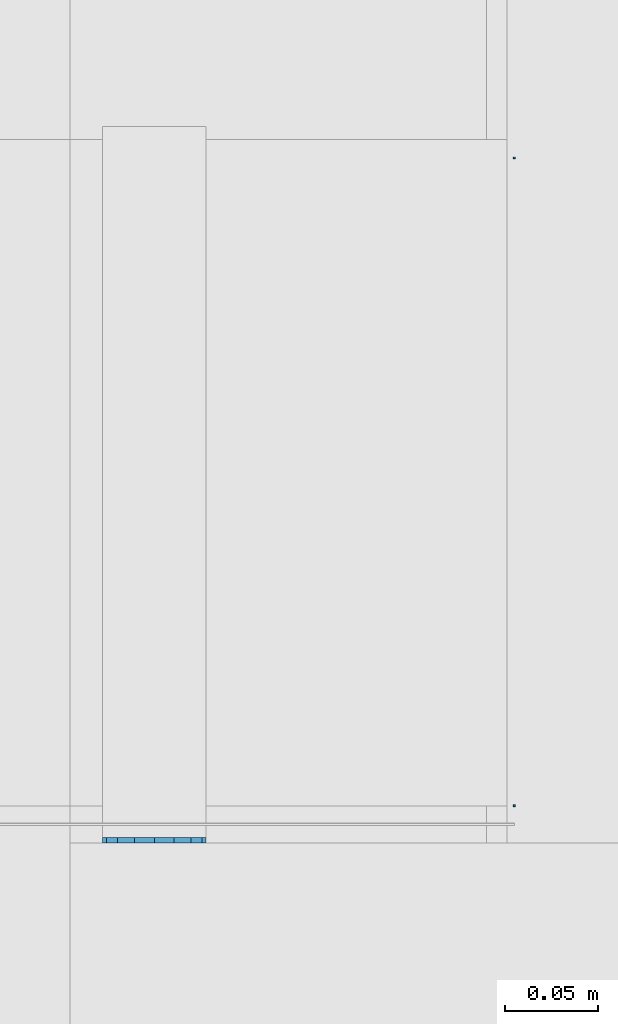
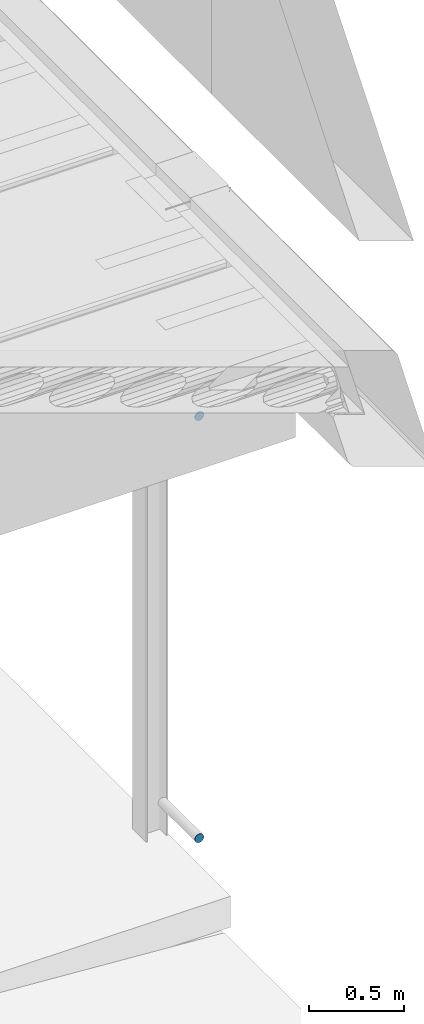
# One storey, part 44 of 230: 4 beams.
"""IFC4X3_ADD2 building model written with IfcOpenShell, lengths in millimetres."""

from ifc_helpers import new_model, si_unit, direction, frame, frame_2d, origin_with_axes, place, context, subcontext, project, spatial, indexed_curve, rectangle, outline, extrude, material, element, save


model = new_model("IFC4X3_ADD2")

# Units and contexts
model_context = context("Model", 3, precision=1e-05, world=origin_with_axes(), true_north=direction((0.0, 1.0)))
body_context = subcontext(model_context, "Body", "Model", "MODEL_VIEW")
ifc_project = project(units=[si_unit("LENGTHUNIT", "METRE", prefix="MILLI"), si_unit("AREAUNIT", "SQUARE_METRE"), si_unit("VOLUMEUNIT", "CUBIC_METRE"), si_unit("PLANEANGLEUNIT", "RADIAN"), si_unit("TIMEUNIT", "SECOND"), si_unit("MASSUNIT", "GRAM")], contexts=[model_context])

# Site, building, storey
site_placement = place(None, origin_with_axes())
site = spatial("IfcSite", under=ifc_project, at=site_placement, Name="Site", CompositionType="ELEMENT")
building_placement = place(site_placement, origin_with_axes())
building = spatial("IfcBuilding", under=site, at=building_placement, Name="IFC Building Story")
storey_placement = place(building_placement, origin_with_axes())
storey = spatial("IfcBuildingStorey", under=building, at=storey_placement, Name="ETAGE 00 (0)", Elevation=0.0)

# Beams
ifc_material_1 = material(Name="STEEL/Accessory 22919")
for number, where, z_axis, x_axis, name in (
    (1, (48311.18800000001, -8227.0, 140.0000000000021), (0.0, -1.0, 0.0), (-0.1950903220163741, 0.0, 0.9807852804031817), "TA4"),
    (2, (48311.18800000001, -8227.0, 2860.000000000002), (0.0, -1.0, 0.0), (-0.1950903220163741, 0.0, 0.9807852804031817), "TA4"),
):
    element("IfcBeam", number, at=place(storey_placement, frame(where, z_axis=z_axis, x_axis=x_axis)), inside=storey, material=ifc_material_1, Name=name, ObjectType="D56", context=body_context, shape_type="SweptSolid", body=[
        extrude(outline(indexed_curve([(23.28114914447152, 15.55596652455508), (27.46198785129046, 5.462529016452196), (27.46198785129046, -5.462529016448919), (23.28114914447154, -15.55596652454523), (15.55596652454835, -23.28114914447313), (5.462529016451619, -27.46198785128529), (-5.462529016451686, -27.46198785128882), (-15.55596652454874, -23.28114914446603), (-23.2811491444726, -15.55596652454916), (-27.46198785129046, -5.462529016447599), (-27.46198785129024, 5.462529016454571), (-23.28114914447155, 15.55596652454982), (-15.55596652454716, 23.28114914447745), (-5.462529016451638, 27.46198785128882), (5.462529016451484, 27.46198785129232), (15.55596652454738, 23.28114914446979), (23.28114914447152, 15.55596652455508)])), origin_with_axes(), (0.0, 0.0, 1.0), 3.0),
    ])
ifc_material_2 = material(Name="STEEL/Accessory_invisible")
for number, where, z_axis, x_axis, name in (
    (3, (48506.186, -8210.0, 4231.00471881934), (-1.0, 0.0, 0.0), (0.0, 0.0, 1.0), "ZW3"),
    (4, (48506.186, -7860.0, 4231.00471881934), (-1.0, 0.0, 0.0), (0.0, 0.0, 1.0), "ZW3"),
):
    element("IfcBeam", number, at=place(storey_placement, frame(where, z_axis=z_axis, x_axis=x_axis)), inside=storey, material=ifc_material_2, Name=name, ObjectType="1*1 5", context=body_context, shape_type="SweptSolid", body=[
        extrude(rectangle(XDim=10.3612973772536, YDim=0.9999999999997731, at=frame_2d((0.0, 5.95523630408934e-12), x_axis=(1.0, 0.0))), origin_with_axes(), (0.0, 0.0, 1.0), 1.0),
    ])

save(model, "model.ifc")
